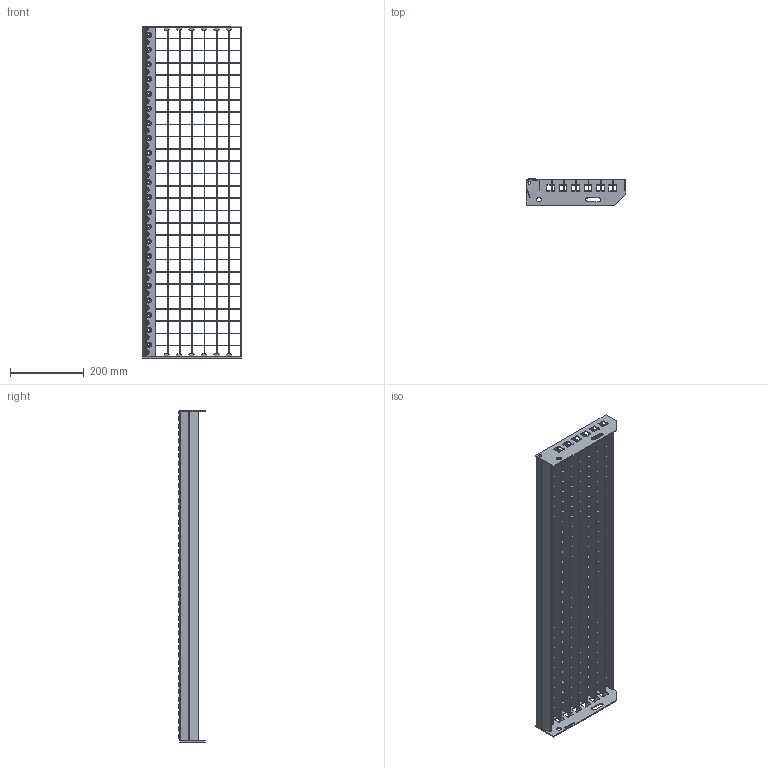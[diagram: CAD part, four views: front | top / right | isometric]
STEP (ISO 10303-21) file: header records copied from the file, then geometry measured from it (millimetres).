
FILE_DESCRIPTION(/* description */ ('','CAx-IF Rec.Pracs.---Representation and Presentation of Product Manufacturing Information (PMI)---3.8---2014-02-18'),/* implementation_level */ '2;1');
FILE_NAME(/* name */ 'C:\Users\phaverkotte\Desktop\Lager STEP\P-Stufen\P 230-33-2\P 230-33-2 900mm x 270mm.stp',/* time_stamp */ '2018-03-24T09:48:32+01:00',/* author */ ('phaverkotte'),/* organization */ (''),/* preprocessor_version */ 'ST-DEVELOPER v16.13',/* originating_system */ 'Autodesk Inventor 2018',/* authorisation */ '');
FILE_SCHEMA (('AP242_MANAGED_MODEL_BASED_3D_ENGINEERING_MIM_LF { 1 0 10303 442 1 1 4 }'));
Length unit declared in the file: millimetre
Products named in the file (8): Schodišťový stupeň přím
ý lisovaný; Seitenplatte ausgeklinkt links; Seitenplatte 240 ausgeklinkt extern rechts; Schod nášlap; P Rošt schodu; Querstab; P Nosný pás; Hinteres Flach
Assembly tree (38 placements, depth 3):
  Schodišťový stupeň přím
ý lisovaný
    Seitenplatte ausgeklinkt links
    Seitenplatte 240 ausgeklinkt extern rechts
    Schod nášlap
    P Rošt schodu
      Querstab  x26
      P Nosný pás  x7
      Hinteres Flach
Bounding box: 270.31 x 72.75 x 900 mm (x, y, z)
Volume: 801384.6 mm3; surface area: 818967.7 mm2
Topology: 37 solids, 37 shells, 1578 faces, 4346 edges, 2859 vertices
Faces by surface type: plane 1242, cone 135, cylinder 132, torus 45, bspline 24
Full cylindrical faces by diameter (mm): 8 x2, 13 x2
Entity records: 27455 total; most frequent: CARTESIAN_POINT 8165, DIRECTION 3850, ORIENTED_EDGE 3666, EDGE_CURVE 1833, LINE 1288, VECTOR 1288, AXIS2_PLACEMENT_3D 1281, VERTEX_POINT 1274
